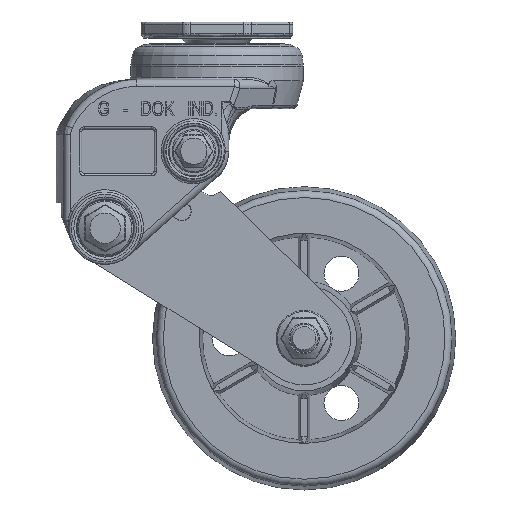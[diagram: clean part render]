
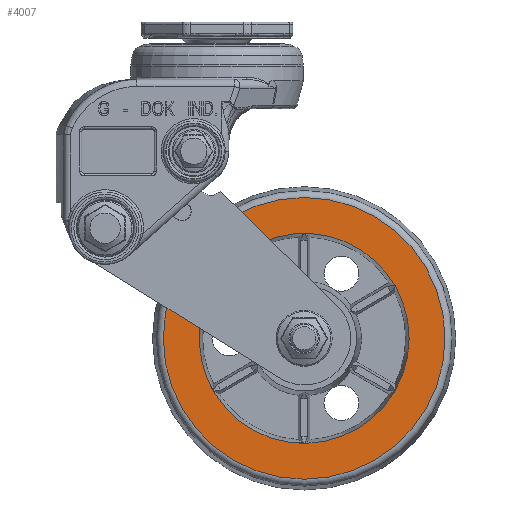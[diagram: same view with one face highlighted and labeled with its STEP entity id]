
A CAD part, left-side view. The second image highlights one B-rep face of the part: STEP entity #4007.
In plain terms, the highlighted planar face has unit normal (-1, 0, 0).
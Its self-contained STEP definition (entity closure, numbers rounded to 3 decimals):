
#859=CARTESIAN_POINT('',(-20.0,23.061,-125.502));
#860=VERTEX_POINT('',#859);
#861=CARTESIAN_POINT('',(-20.0,-37.313,-125.502));
#862=DIRECTION('',(1.0,0.0,0.0));
#863=DIRECTION('',(0.0,-1.0,0.0));
#864=AXIS2_PLACEMENT_3D('',#861,#862,#863);
#865=CIRCLE('',#864,60.373);
#866=EDGE_CURVE('',#860,#860,#865,.T.);
#1678=CARTESIAN_POINT('',(-20.0,-82.313,-125.502));
#1679=VERTEX_POINT('',#1678);
#1680=CARTESIAN_POINT('',(-20.0,-37.313,-125.502));
#1681=DIRECTION('',(1.0,0.0,0.0));
#1682=DIRECTION('',(0.0,1.0,0.0));
#1683=AXIS2_PLACEMENT_3D('',#1680,#1681,#1682);
#1684=CIRCLE('',#1683,45.);
#1685=EDGE_CURVE('',#1679,#1679,#1684,.T.);
#3996=CARTESIAN_POINT('',(-20.0,10.187,-125.502));
#3997=DIRECTION('',(-1.0,0.0,0.0));
#3998=DIRECTION('',(0.0,0.0,1.0));
#3999=AXIS2_PLACEMENT_3D('',#3996,#3997,#3998);
#4000=PLANE('',#3999);
#4001=ORIENTED_EDGE('',*,*,#866,.F.);
#4002=EDGE_LOOP('',(#4001));
#4003=FACE_OUTER_BOUND('',#4002,.T.);
#4004=ORIENTED_EDGE('',*,*,#1685,.T.);
#4005=EDGE_LOOP('',(#4004));
#4006=FACE_BOUND('',#4005,.T.);
#4007=ADVANCED_FACE('',(#4003,#4006),#4000,.T.);
